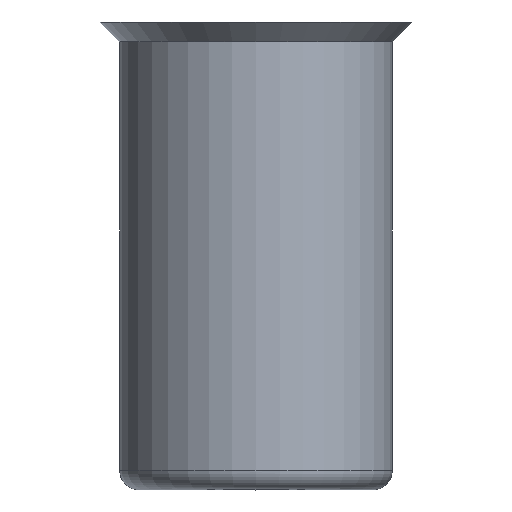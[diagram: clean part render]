
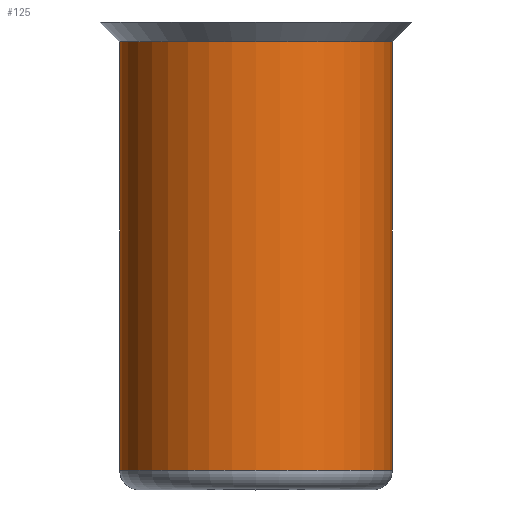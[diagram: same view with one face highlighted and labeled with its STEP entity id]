
A CAD part, top view. The second image highlights one B-rep face of the part: STEP entity #125.
In plain terms, the highlighted cylindrical face has radius 3.5 mm (diameter 7 mm), a full revolution.
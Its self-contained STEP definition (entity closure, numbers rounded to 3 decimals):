
#6 = DIRECTION ( 'NONE',  ( 0., 0., -1. ) ) ;
#7 = EDGE_LOOP ( 'NONE', ( #87 ) ) ;
#13 = VERTEX_POINT ( 'NONE', #85 ) ;
#14 = AXIS2_PLACEMENT_3D ( 'NONE', #172, #91, #174 ) ;
#25 = CYLINDRICAL_SURFACE ( 'NONE', #72, 3.5 ) ;
#36 = AXIS2_PLACEMENT_3D ( 'NONE', #140, #66, #6 ) ;
#42 = EDGE_CURVE ( 'NONE', #180, #180, #94, .T. ) ;
#52 = EDGE_LOOP ( 'NONE', ( #193 ) ) ;
#66 = DIRECTION ( 'NONE',  ( 0., -1., 0. ) ) ;
#72 = AXIS2_PLACEMENT_3D ( 'NONE', #88, #151, #148 ) ;
#79 = EDGE_CURVE ( 'NONE', #13, #13, #124, .T. ) ;
#85 = CARTESIAN_POINT ( 'NONE',  ( 0., -0.5, -3.5 ) ) ;
#87 = ORIENTED_EDGE ( 'NONE', *, *, #79, .T. ) ;
#88 = CARTESIAN_POINT ( 'NONE',  ( 0., 0., 0. ) ) ;
#91 = DIRECTION ( 'NONE',  ( 0., 1., 0. ) ) ;
#94 = CIRCLE ( 'NONE', #14, 3.5 ) ;
#99 = CARTESIAN_POINT ( 'NONE',  ( 0., -11.5, 3.5 ) ) ;
#119 = FACE_OUTER_BOUND ( 'NONE', #7, .T. ) ;
#124 = CIRCLE ( 'NONE', #36, 3.5 ) ;
#125 = ADVANCED_FACE ( 'NONE', ( #197, #119 ), #25, .T. ) ;
#140 = CARTESIAN_POINT ( 'NONE',  ( 0., -0.5, 0. ) ) ;
#148 = DIRECTION ( 'NONE',  ( 0., 0., -1. ) ) ;
#151 = DIRECTION ( 'NONE',  ( 0., -1., 0. ) ) ;
#172 = CARTESIAN_POINT ( 'NONE',  ( 0., -11.5, 0. ) ) ;
#174 = DIRECTION ( 'NONE',  ( 0., 0., 1. ) ) ;
#180 = VERTEX_POINT ( 'NONE', #99 ) ;
#193 = ORIENTED_EDGE ( 'NONE', *, *, #42, .T. ) ;
#197 = FACE_OUTER_BOUND ( 'NONE', #52, .T. ) ;
